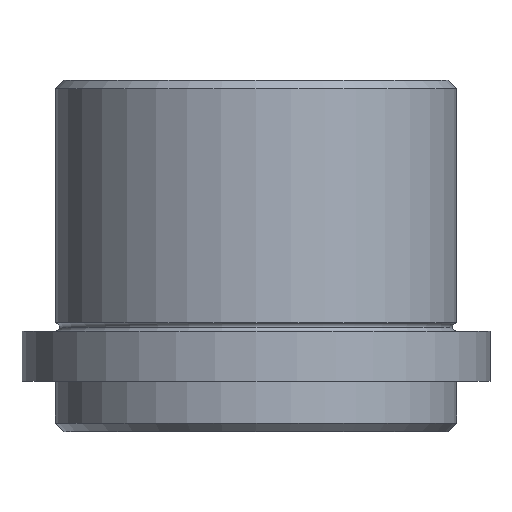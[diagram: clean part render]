
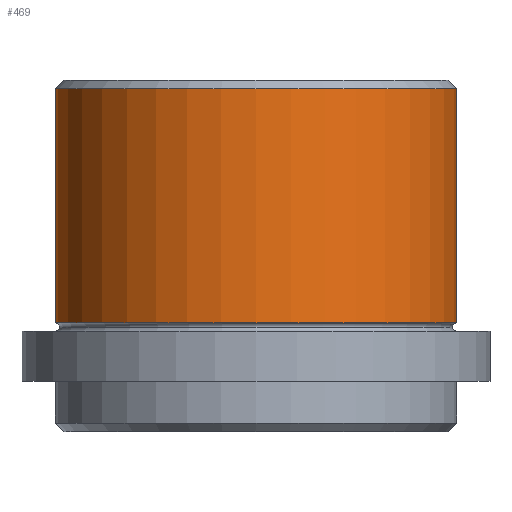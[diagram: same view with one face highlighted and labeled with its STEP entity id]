
A CAD part, front view. The second image highlights one B-rep face of the part: STEP entity #469.
In plain terms, the highlighted cylindrical face has radius 24 mm (diameter 48 mm), a partial arc.
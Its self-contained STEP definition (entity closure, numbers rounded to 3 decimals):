
#39 = DIRECTION ( 'NONE',  ( 0., 0., 1. ) ) ;
#68 = EDGE_CURVE ( 'NONE', #367, #576, #561, .T. ) ;
#69 = CARTESIAN_POINT ( 'NONE',  ( -24., 0., -1. ) ) ;
#84 = DIRECTION ( 'NONE',  ( 1., 0., 0. ) ) ;
#114 = CARTESIAN_POINT ( 'NONE',  ( 24., 0., -1. ) ) ;
#169 = LINE ( 'NONE', #176, #222 ) ;
#176 = CARTESIAN_POINT ( 'NONE',  ( 24., 0., 0. ) ) ;
#186 = EDGE_CURVE ( 'NONE', #278, #591, #169, .T. ) ;
#214 = EDGE_CURVE ( 'NONE', #591, #576, #294, .T. ) ;
#222 = VECTOR ( 'NONE', #39, 1000. ) ;
#265 = DIRECTION ( 'NONE',  ( 1., 0., 0. ) ) ;
#271 = CARTESIAN_POINT ( 'NONE',  ( 0., 0., 0. ) ) ;
#278 = VERTEX_POINT ( 'NONE', #686 ) ;
#294 = CIRCLE ( 'NONE', #724, 24. ) ;
#314 = EDGE_CURVE ( 'NONE', #367, #278, #436, .T. ) ;
#362 = CARTESIAN_POINT ( 'NONE',  ( -24., 0., -29. ) ) ;
#363 = DIRECTION ( 'NONE',  ( 0., 0., 1. ) ) ;
#367 = VERTEX_POINT ( 'NONE', #362 ) ;
#375 = CARTESIAN_POINT ( 'NONE',  ( 0., 0., -1. ) ) ;
#418 = ORIENTED_EDGE ( 'NONE', *, *, #214, .T. ) ;
#420 = DIRECTION ( 'NONE',  ( 0., 0., 1. ) ) ;
#434 = CARTESIAN_POINT ( 'NONE',  ( 0., 0., -29. ) ) ;
#436 = CIRCLE ( 'NONE', #698, 24. ) ;
#445 = CARTESIAN_POINT ( 'NONE',  ( -24., 0., 0. ) ) ;
#450 = DIRECTION ( 'NONE',  ( 0., 0., 1. ) ) ;
#469 = ADVANCED_FACE ( 'NONE', ( #864 ), #852, .T. ) ;
#505 = VECTOR ( 'NONE', #450, 1000. ) ;
#561 = LINE ( 'NONE', #445, #505 ) ;
#576 = VERTEX_POINT ( 'NONE', #69 ) ;
#580 = DIRECTION ( 'NONE',  ( 0., 0., -1. ) ) ;
#582 = DIRECTION ( 'NONE',  ( -1., 0., 0. ) ) ;
#591 = VERTEX_POINT ( 'NONE', #114 ) ;
#633 = AXIS2_PLACEMENT_3D ( 'NONE', #271, #363, #265 ) ;
#662 = EDGE_LOOP ( 'NONE', ( #745, #712, #694, #418 ) ) ;
#686 = CARTESIAN_POINT ( 'NONE',  ( 24., 0., -29. ) ) ;
#694 = ORIENTED_EDGE ( 'NONE', *, *, #186, .T. ) ;
#698 = AXIS2_PLACEMENT_3D ( 'NONE', #434, #420, #84 ) ;
#712 = ORIENTED_EDGE ( 'NONE', *, *, #314, .T. ) ;
#724 = AXIS2_PLACEMENT_3D ( 'NONE', #375, #580, #582 ) ;
#745 = ORIENTED_EDGE ( 'NONE', *, *, #68, .F. ) ;
#852 = CYLINDRICAL_SURFACE ( 'NONE', #633, 24. ) ;
#864 = FACE_OUTER_BOUND ( 'NONE', #662, .T. ) ;
